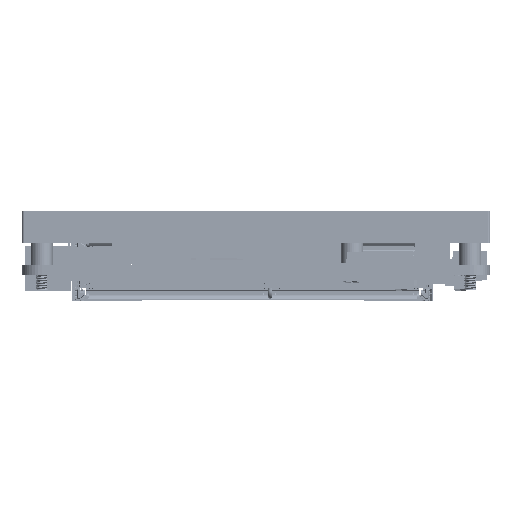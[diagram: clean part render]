
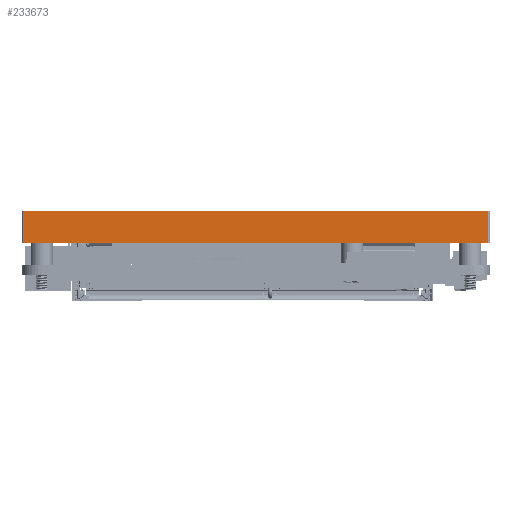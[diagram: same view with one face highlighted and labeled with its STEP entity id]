
A CAD part, left-side view. The second image highlights one B-rep face of the part: STEP entity #233673.
In plain terms, the highlighted planar face has unit normal (-1, 0, 0).
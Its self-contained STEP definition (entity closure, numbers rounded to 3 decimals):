
#231616=DIRECTION('',(0.,-1.,0.));
#231617=VECTOR('',#231616,6.5);
#231618=CARTESIAN_POINT('',(-62.5,14.,47.));
#231619=LINE('',#231618,#231617);
#231623=DIRECTION('',(0.,0.,-1.));
#231624=VECTOR('',#231623,94.);
#231625=CARTESIAN_POINT('',(-62.5,7.5,47.));
#231626=LINE('',#231625,#231624);
#231630=DIRECTION('',(0.,-1.,0.));
#231631=VECTOR('',#231630,6.5);
#231632=CARTESIAN_POINT('',(-62.5,14.,-47.));
#231633=LINE('',#231632,#231631);
#232237=DIRECTION('',(0.,0.,-1.));
#232238=VECTOR('',#232237,94.);
#232239=CARTESIAN_POINT('',(-62.5,14.,47.));
#232240=LINE('',#232239,#232238);
#233575=CARTESIAN_POINT('',(-62.5,7.5,47.));
#233577=VERTEX_POINT('',#233575);
#233578=CARTESIAN_POINT('',(-62.5,14.,47.));
#233579=VERTEX_POINT('',#233578);
#233582=CARTESIAN_POINT('',(-62.5,7.5,-47.));
#233584=VERTEX_POINT('',#233582);
#233588=CARTESIAN_POINT('',(-62.5,14.,-47.));
#233589=VERTEX_POINT('',#233588);
#233658=CARTESIAN_POINT('',(-62.5,0.,-47.5));
#233659=DIRECTION('',(-1.,0.,0.));
#233660=DIRECTION('',(0.,0.,1.));
#233661=AXIS2_PLACEMENT_3D('',#233658,#233659,#233660);
#233662=PLANE('',#233661);
#233664=ORIENTED_EDGE('',*,*,#233663,.T.);
#233666=ORIENTED_EDGE('',*,*,#233665,.T.);
#233668=ORIENTED_EDGE('',*,*,#233667,.F.);
#233670=ORIENTED_EDGE('',*,*,#233669,.F.);
#233671=EDGE_LOOP('',(#233664,#233666,#233668,#233670));
#233672=FACE_OUTER_BOUND('',#233671,.F.);
#233673=ADVANCED_FACE('',(#233672),#233662,.T.);
#233663=EDGE_CURVE('',#233579,#233577,#231619,.T.);
#233665=EDGE_CURVE('',#233577,#233584,#231626,.T.);
#233667=EDGE_CURVE('',#233589,#233584,#231633,.T.);
#233669=EDGE_CURVE('',#233579,#233589,#232240,.T.);
